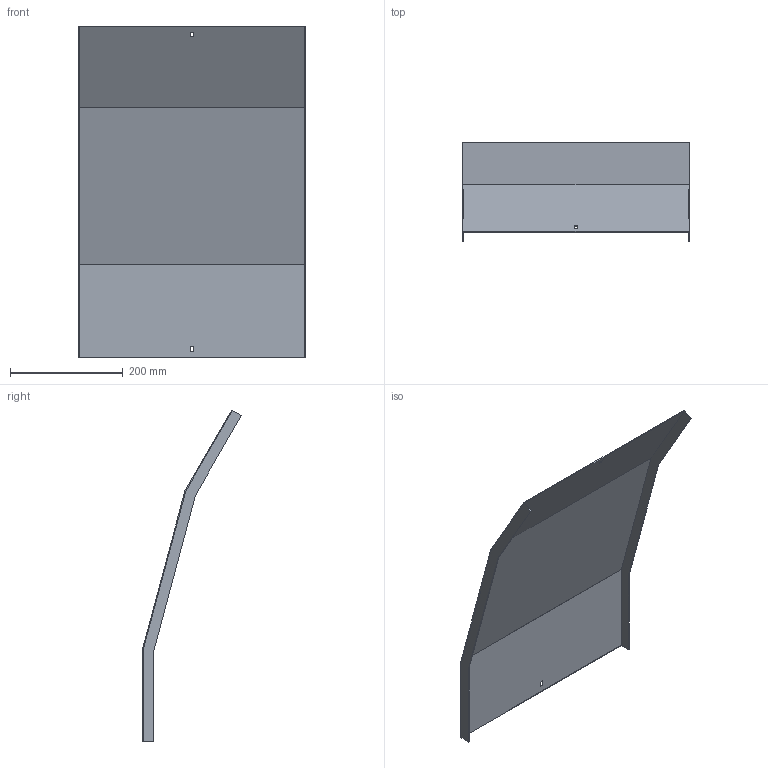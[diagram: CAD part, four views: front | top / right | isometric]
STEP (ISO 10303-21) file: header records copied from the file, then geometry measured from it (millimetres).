
FILE_DESCRIPTION (( 'STEP AP214' ), '1' );
FILE_NAME ('35N5D400.step', '2025-02-21T10:29:08', ( '' ), ( '' ), 'SwSTEP 2.0', 'SolidWorks 2023', '' );
FILE_SCHEMA (( 'AUTOMOTIVE_DESIGN' ));
Length unit declared in the file: millimetre
Products named in the file (1): 35N5D400
Bounding box: 403 x 175.26 x 589.45 mm (x, y, z)
Volume: 409482.8 mm3; surface area: 549224.3 mm2
Topology: 1 solids, 1 shells, 26 faces, 72 edges, 48 vertices
Faces by surface type: plane 26
Entity records: 847 total; most frequent: CARTESIAN_POINT 147, ORIENTED_EDGE 144, DIRECTION 126, VECTOR 72, LINE 72, EDGE_CURVE 72, VERTEX_POINT 48, EDGE_LOOP 30
